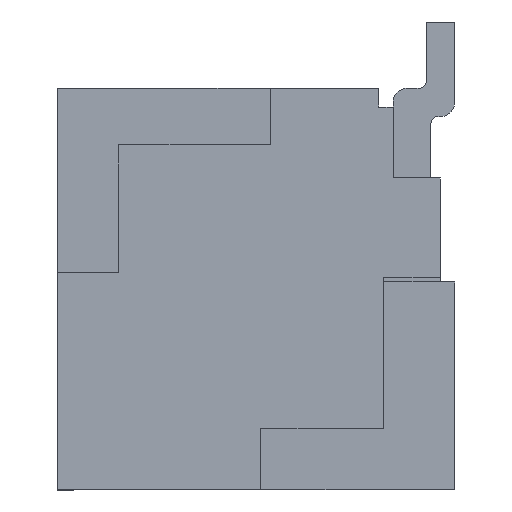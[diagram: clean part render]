
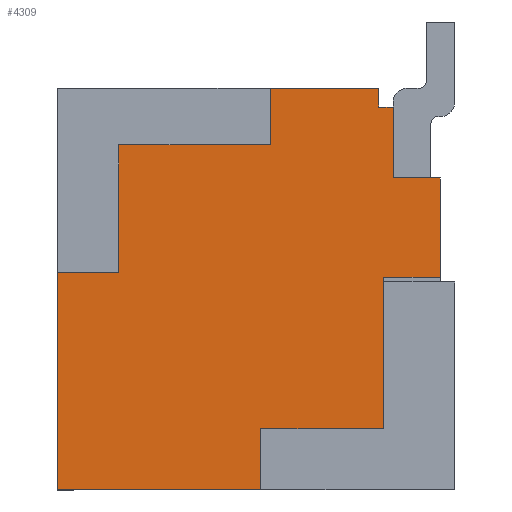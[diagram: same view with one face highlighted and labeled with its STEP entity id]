
A CAD part, left-side view. The second image highlights one B-rep face of the part: STEP entity #4309.
In plain terms, the highlighted planar face has unit normal (-1, 0, 0).
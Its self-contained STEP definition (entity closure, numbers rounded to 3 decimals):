
#20 = VECTOR ( 'NONE', #4554, 1000. ) ;
#56 = LINE ( 'NONE', #2927, #20 ) ;
#106 = VERTEX_POINT ( 'NONE', #4783 ) ;
#166 = LINE ( 'NONE', #2218, #2332 ) ;
#183 = VERTEX_POINT ( 'NONE', #2429 ) ;
#198 = CARTESIAN_POINT ( 'NONE',  ( -10.75, 3.875, 3.725 ) ) ;
#321 = CARTESIAN_POINT ( 'NONE',  ( -10.75, -0.175, 1.725 ) ) ;
#342 = VECTOR ( 'NONE', #3535, 1000. ) ;
#364 = DIRECTION ( 'NONE',  ( 0., 0., 1. ) ) ;
#378 = ORIENTED_EDGE ( 'NONE', *, *, #3127, .T. ) ;
#464 = ORIENTED_EDGE ( 'NONE', *, *, #854, .T. ) ;
#533 = EDGE_CURVE ( 'NONE', #106, #2732, #3502, .T. ) ;
#552 = EDGE_CURVE ( 'NONE', #2954, #2519, #5202, .T. ) ;
#598 = ORIENTED_EDGE ( 'NONE', *, *, #2997, .T. ) ;
#632 = VECTOR ( 'NONE', #3981, 1000. ) ;
#725 = DIRECTION ( 'NONE',  ( 0., -1., 0. ) ) ;
#729 = LINE ( 'NONE', #1051, #342 ) ;
#839 = EDGE_CURVE ( 'NONE', #3205, #3682, #2001, .T. ) ;
#854 = EDGE_CURVE ( 'NONE', #3078, #1039, #1144, .T. ) ;
#888 = ORIENTED_EDGE ( 'NONE', *, *, #4170, .F. ) ;
#925 = CARTESIAN_POINT ( 'NONE',  ( -10.75, -0.175, 3.725 ) ) ;
#1039 = VERTEX_POINT ( 'NONE', #4753 ) ;
#1050 = EDGE_CURVE ( 'NONE', #5186, #2107, #3594, .T. ) ;
#1051 = CARTESIAN_POINT ( 'NONE',  ( -10.75, 0.425, 3.725 ) ) ;
#1132 = VERTEX_POINT ( 'NONE', #2186 ) ;
#1139 = CARTESIAN_POINT ( 'NONE',  ( -10.75, 1.725, -0.525 ) ) ;
#1144 = LINE ( 'NONE', #3632, #2453 ) ;
#1207 = ORIENTED_EDGE ( 'NONE', *, *, #2126, .F. ) ;
#1211 = ORIENTED_EDGE ( 'NONE', *, *, #2916, .T. ) ;
#1236 = DIRECTION ( 'NONE',  ( 0., 0., 1. ) ) ;
#1239 = CARTESIAN_POINT ( 'NONE',  ( -10.75, 0.425, 0.125 ) ) ;
#1262 = ORIENTED_EDGE ( 'NONE', *, *, #1050, .F. ) ;
#1280 = VERTEX_POINT ( 'NONE', #1239 ) ;
#1327 = VECTOR ( 'NONE', #2259, 1000. ) ;
#1332 = CARTESIAN_POINT ( 'NONE',  ( -10.75, 3.875, 3.725 ) ) ;
#1367 = LINE ( 'NONE', #4211, #5155 ) ;
#1440 = VECTOR ( 'NONE', #364, 1000. ) ;
#1448 = ORIENTED_EDGE ( 'NONE', *, *, #552, .T. ) ;
#1461 = LINE ( 'NONE', #3110, #632 ) ;
#1525 = DIRECTION ( 'NONE',  ( 0., 0., 1. ) ) ;
#1572 = CARTESIAN_POINT ( 'NONE',  ( -10.75, 3.875, 2.775 ) ) ;
#1577 = DIRECTION ( 'NONE',  ( 0., 1., 0. ) ) ;
#1600 = VECTOR ( 'NONE', #1525, 1000. ) ;
#1621 = ORIENTED_EDGE ( 'NONE', *, *, #4160, .F. ) ;
#1629 = VECTOR ( 'NONE', #2850, 1000. ) ;
#1735 = CARTESIAN_POINT ( 'NONE',  ( -10.75, 0.475, 3.725 ) ) ;
#1810 = DIRECTION ( 'NONE',  ( 0., 1., 0. ) ) ;
#1863 = ORIENTED_EDGE ( 'NONE', *, *, #839, .F. ) ;
#1874 = CARTESIAN_POINT ( 'NONE',  ( -10.75, 3.875, 1.775 ) ) ;
#2001 = LINE ( 'NONE', #1572, #4283 ) ;
#2040 = LINE ( 'NONE', #4935, #3173 ) ;
#2107 = VERTEX_POINT ( 'NONE', #2630 ) ;
#2126 = EDGE_CURVE ( 'NONE', #2954, #106, #3581, .T. ) ;
#2137 = EDGE_LOOP ( 'NONE', ( #1262, #2362, #2600, #1207, #1448, #2992, #4073, #5105, #888, #378, #1863, #598, #4147, #1211, #464, #1621 ) ) ;
#2186 = CARTESIAN_POINT ( 'NONE',  ( -10.75, 0.475, 3.525 ) ) ;
#2218 = CARTESIAN_POINT ( 'NONE',  ( -10.75, 0.325, 3.525 ) ) ;
#2259 = DIRECTION ( 'NONE',  ( 0., -1., 0. ) ) ;
#2308 = EDGE_CURVE ( 'NONE', #1280, #183, #2390, .T. ) ;
#2332 = VECTOR ( 'NONE', #1810, 1000. ) ;
#2339 = DIRECTION ( 'NONE',  ( 0., 1., 0. ) ) ;
#2362 = ORIENTED_EDGE ( 'NONE', *, *, #4775, .F. ) ;
#2390 = LINE ( 'NONE', #4047, #4115 ) ;
#2429 = CARTESIAN_POINT ( 'NONE',  ( -10.75, 1.725, 0.125 ) ) ;
#2453 = VECTOR ( 'NONE', #2339, 1000. ) ;
#2459 = LINE ( 'NONE', #2900, #1629 ) ;
#2469 = LINE ( 'NONE', #3695, #1440 ) ;
#2519 = VERTEX_POINT ( 'NONE', #1139 ) ;
#2548 = DIRECTION ( 'NONE',  ( 0., 0., 1. ) ) ;
#2600 = ORIENTED_EDGE ( 'NONE', *, *, #533, .F. ) ;
#2620 = PLANE ( 'NONE',  #3193 ) ;
#2630 = CARTESIAN_POINT ( 'NONE',  ( -10.75, 1.625, 3.125 ) ) ;
#2634 = CARTESIAN_POINT ( 'NONE',  ( -10.75, 3.875, -0.525 ) ) ;
#2653 = DIRECTION ( 'NONE',  ( 1., 0., 0. ) ) ;
#2689 = VERTEX_POINT ( 'NONE', #3049 ) ;
#2732 = VERTEX_POINT ( 'NONE', #3897 ) ;
#2831 = EDGE_CURVE ( 'NONE', #2689, #1280, #729, .T. ) ;
#2850 = DIRECTION ( 'NONE',  ( 0., 0., 1. ) ) ;
#2900 = CARTESIAN_POINT ( 'NONE',  ( -10.75, 1.625, 3.725 ) ) ;
#2916 = EDGE_CURVE ( 'NONE', #1132, #3078, #2469, .T. ) ;
#2927 = CARTESIAN_POINT ( 'NONE',  ( -10.75, 3.875, 1.725 ) ) ;
#2954 = VERTEX_POINT ( 'NONE', #3256 ) ;
#2992 = ORIENTED_EDGE ( 'NONE', *, *, #3143, .F. ) ;
#2997 = EDGE_CURVE ( 'NONE', #3205, #4232, #2040, .T. ) ;
#3023 = DIRECTION ( 'NONE',  ( 0., 0., -1. ) ) ;
#3049 = CARTESIAN_POINT ( 'NONE',  ( -10.75, 0.425, 1.725 ) ) ;
#3078 = VERTEX_POINT ( 'NONE', #1735 ) ;
#3110 = CARTESIAN_POINT ( 'NONE',  ( -10.75, 3.225, 3.725 ) ) ;
#3127 = EDGE_CURVE ( 'NONE', #4425, #3682, #4611, .T. ) ;
#3143 = EDGE_CURVE ( 'NONE', #183, #2519, #1367, .T. ) ;
#3173 = VECTOR ( 'NONE', #1236, 1000. ) ;
#3193 = AXIS2_PLACEMENT_3D ( 'NONE', #1332, #2653, #4279 ) ;
#3205 = VERTEX_POINT ( 'NONE', #5231 ) ;
#3256 = CARTESIAN_POINT ( 'NONE',  ( -10.75, 3.875, -0.525 ) ) ;
#3301 = CARTESIAN_POINT ( 'NONE',  ( -10.75, 0.325, 3.525 ) ) ;
#3484 = VECTOR ( 'NONE', #725, 1000. ) ;
#3502 = LINE ( 'NONE', #1874, #1327 ) ;
#3535 = DIRECTION ( 'NONE',  ( 0., 0., -1. ) ) ;
#3539 = DIRECTION ( 'NONE',  ( 0., -1., 0. ) ) ;
#3581 = LINE ( 'NONE', #198, #1600 ) ;
#3594 = LINE ( 'NONE', #4355, #4101 ) ;
#3632 = CARTESIAN_POINT ( 'NONE',  ( -10.75, 3.875, 3.725 ) ) ;
#3649 = CARTESIAN_POINT ( 'NONE',  ( -10.75, -0.175, 2.775 ) ) ;
#3682 = VERTEX_POINT ( 'NONE', #3649 ) ;
#3695 = CARTESIAN_POINT ( 'NONE',  ( -10.75, 0.475, 3.525 ) ) ;
#3820 = CARTESIAN_POINT ( 'NONE',  ( -10.75, 3.225, 3.125 ) ) ;
#3897 = CARTESIAN_POINT ( 'NONE',  ( -10.75, 3.225, 1.775 ) ) ;
#3981 = DIRECTION ( 'NONE',  ( 0., 0., 1. ) ) ;
#4047 = CARTESIAN_POINT ( 'NONE',  ( -10.75, 3.875, 0.125 ) ) ;
#4073 = ORIENTED_EDGE ( 'NONE', *, *, #2308, .F. ) ;
#4101 = VECTOR ( 'NONE', #3539, 1000. ) ;
#4115 = VECTOR ( 'NONE', #1577, 1000. ) ;
#4147 = ORIENTED_EDGE ( 'NONE', *, *, #4327, .T. ) ;
#4160 = EDGE_CURVE ( 'NONE', #2107, #1039, #2459, .T. ) ;
#4170 = EDGE_CURVE ( 'NONE', #4425, #2689, #56, .T. ) ;
#4211 = CARTESIAN_POINT ( 'NONE',  ( -10.75, 1.725, -0.525 ) ) ;
#4232 = VERTEX_POINT ( 'NONE', #3301 ) ;
#4279 = DIRECTION ( 'NONE',  ( 0., 0., -1. ) ) ;
#4283 = VECTOR ( 'NONE', #5298, 1000. ) ;
#4309 = ADVANCED_FACE ( 'NONE', ( #4705 ), #2620, .F. ) ;
#4327 = EDGE_CURVE ( 'NONE', #4232, #1132, #166, .T. ) ;
#4355 = CARTESIAN_POINT ( 'NONE',  ( -10.75, 3.875, 3.125 ) ) ;
#4425 = VERTEX_POINT ( 'NONE', #321 ) ;
#4554 = DIRECTION ( 'NONE',  ( 0., 1., 0. ) ) ;
#4611 = LINE ( 'NONE', #925, #4646 ) ;
#4646 = VECTOR ( 'NONE', #2548, 1000. ) ;
#4705 = FACE_OUTER_BOUND ( 'NONE', #2137, .T. ) ;
#4753 = CARTESIAN_POINT ( 'NONE',  ( -10.75, 1.625, 3.725 ) ) ;
#4775 = EDGE_CURVE ( 'NONE', #2732, #5186, #1461, .T. ) ;
#4783 = CARTESIAN_POINT ( 'NONE',  ( -10.75, 3.875, 1.775 ) ) ;
#4935 = CARTESIAN_POINT ( 'NONE',  ( -10.75, 0.325, 2.775 ) ) ;
#5105 = ORIENTED_EDGE ( 'NONE', *, *, #2831, .F. ) ;
#5155 = VECTOR ( 'NONE', #3023, 1000. ) ;
#5186 = VERTEX_POINT ( 'NONE', #3820 ) ;
#5202 = LINE ( 'NONE', #2634, #3484 ) ;
#5231 = CARTESIAN_POINT ( 'NONE',  ( -10.75, 0.325, 2.775 ) ) ;
#5298 = DIRECTION ( 'NONE',  ( 0., -1., 0. ) ) ;
